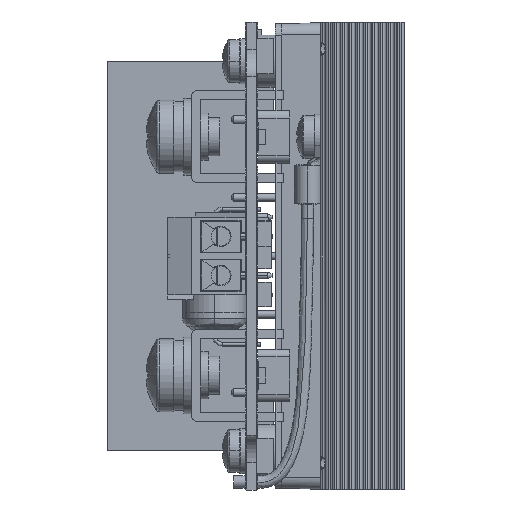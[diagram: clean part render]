
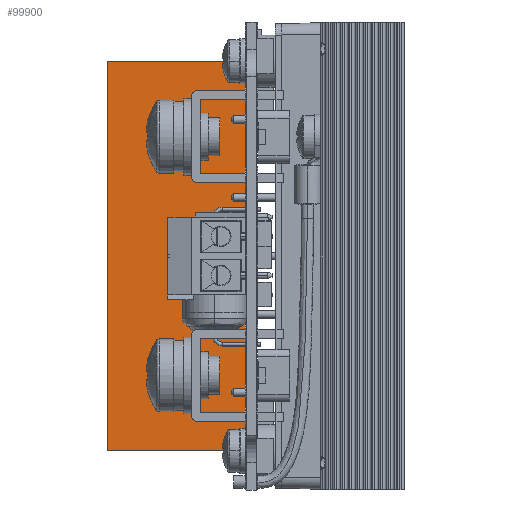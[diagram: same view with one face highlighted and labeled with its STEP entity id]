
A CAD part, left-side view. The second image highlights one B-rep face of the part: STEP entity #99900.
In plain terms, the highlighted planar face has unit normal (-1, 0, 0).
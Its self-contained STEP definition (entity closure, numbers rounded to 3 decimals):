
#3213 = CARTESIAN_POINT ( 'NONE',  ( -20.56, 24.9, 25.4 ) ) ;
#4143 = ORIENTED_EDGE ( 'NONE', *, *, #58672, .F. ) ;
#4458 = DIRECTION ( 'NONE',  ( 1., 0., 0. ) ) ;
#6837 = LINE ( 'NONE', #3213, #56283 ) ;
#9604 = VERTEX_POINT ( 'NONE', #17853 ) ;
#11015 = CARTESIAN_POINT ( 'NONE',  ( -20.56, 15.9, 25.4 ) ) ;
#16413 = VECTOR ( 'NONE', #125567, 1000. ) ;
#17853 = CARTESIAN_POINT ( 'NONE',  ( -20.56, 33.9, 25.4 ) ) ;
#21884 = ORIENTED_EDGE ( 'NONE', *, *, #121905, .T. ) ;
#22546 = ORIENTED_EDGE ( 'NONE', *, *, #83139, .T. ) ;
#24018 = FACE_OUTER_BOUND ( 'NONE', #35077, .T. ) ;
#24070 = LINE ( 'NONE', #24152, #54945 ) ;
#24152 = CARTESIAN_POINT ( 'NONE',  ( -20.56, 24.9, -25.4 ) ) ;
#33253 = CARTESIAN_POINT ( 'NONE',  ( -20.56, 33.9, -25.4 ) ) ;
#33306 = CARTESIAN_POINT ( 'NONE',  ( -20.56, 15.9, -25.4 ) ) ;
#33411 = DIRECTION ( 'NONE',  ( 0., 0., -1. ) ) ;
#35077 = EDGE_LOOP ( 'NONE', ( #21884, #4143, #91736, #22546 ) ) ;
#36258 = VERTEX_POINT ( 'NONE', #11015 ) ;
#44163 = CARTESIAN_POINT ( 'NONE',  ( -20.56, 15.9, 25.4 ) ) ;
#49832 = EDGE_CURVE ( 'NONE', #112653, #49921, #24070, .T. ) ;
#49921 = VERTEX_POINT ( 'NONE', #33253 ) ;
#54945 = VECTOR ( 'NONE', #93282, 1000. ) ;
#56283 = VECTOR ( 'NONE', #100509, 1000. ) ;
#58672 = EDGE_CURVE ( 'NONE', #49921, #9604, #123195, .T. ) ;
#78316 = CARTESIAN_POINT ( 'NONE',  ( -20.56, 15.9, 0. ) ) ;
#83139 = EDGE_CURVE ( 'NONE', #112653, #36258, #124993, .T. ) ;
#91736 = ORIENTED_EDGE ( 'NONE', *, *, #49832, .F. ) ;
#93282 = DIRECTION ( 'NONE',  ( 0., 1., 0. ) ) ;
#99900 = ADVANCED_FACE ( 'NONE', ( #24018 ), #101270, .F. ) ;
#100509 = DIRECTION ( 'NONE',  ( 0., 1., 0. ) ) ;
#101270 = PLANE ( 'NONE',  #113682 ) ;
#107757 = DIRECTION ( 'NONE',  ( 0., 0., 1. ) ) ;
#109550 = VECTOR ( 'NONE', #107757, 1000. ) ;
#112653 = VERTEX_POINT ( 'NONE', #33306 ) ;
#113682 = AXIS2_PLACEMENT_3D ( 'NONE', #44163, #4458, #33411 ) ;
#115613 = CARTESIAN_POINT ( 'NONE',  ( -20.56, 33.9, 0. ) ) ;
#121905 = EDGE_CURVE ( 'NONE', #36258, #9604, #6837, .T. ) ;
#123195 = LINE ( 'NONE', #115613, #16413 ) ;
#124993 = LINE ( 'NONE', #78316, #109550 ) ;
#125567 = DIRECTION ( 'NONE',  ( 0., 0., 1. ) ) ;
